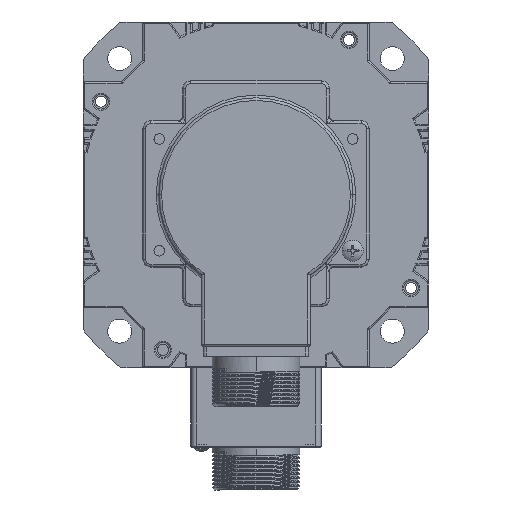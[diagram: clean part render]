
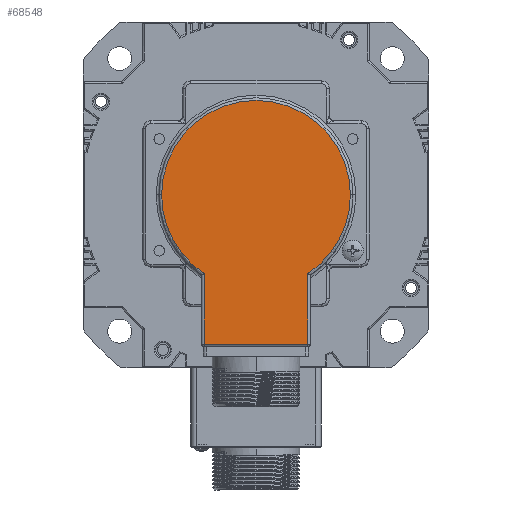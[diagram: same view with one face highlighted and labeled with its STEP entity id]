
A CAD part, front view. The second image highlights one B-rep face of the part: STEP entity #68548.
In plain terms, the highlighted planar face has unit normal (0, -1, 0) as drawn and (0, 0, -1) by its records, which use the part's own axes.
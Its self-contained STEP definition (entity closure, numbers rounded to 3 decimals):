
#280 = EDGE_CURVE ( 'NONE', #12769, #70616, #44548, .T. ) ;
#1198 = DIRECTION ( 'NONE',  ( 0., -1., 0. ) ) ;
#1391 = AXIS2_PLACEMENT_3D ( 'NONE', #35814, #29820, #12072 ) ;
#1818 = CARTESIAN_POINT ( 'NONE',  ( -19.5, 56.15, -33. ) ) ;
#1827 = CIRCLE ( 'NONE', #1391, 35.5 ) ;
#2311 = VECTOR ( 'NONE', #8053, 1000. ) ;
#2338 = EDGE_CURVE ( 'NONE', #70616, #67841, #32735, .T. ) ;
#2842 = ORIENTED_EDGE ( 'NONE', *, *, #7867, .T. ) ;
#3302 = DIRECTION ( 'NONE',  ( -1., 0., 0. ) ) ;
#4728 = FACE_OUTER_BOUND ( 'NONE', #62866, .T. ) ;
#7867 = EDGE_CURVE ( 'NONE', #25682, #21763, #1827, .T. ) ;
#8053 = DIRECTION ( 'NONE',  ( 0., 1., 0. ) ) ;
#8698 = LINE ( 'NONE', #63211, #65851 ) ;
#11341 = ORIENTED_EDGE ( 'NONE', *, *, #35955, .T. ) ;
#12072 = DIRECTION ( 'NONE',  ( -1., 0., 0. ) ) ;
#12453 = VERTEX_POINT ( 'NONE', #58096 ) ;
#12489 = AXIS2_PLACEMENT_3D ( 'NONE', #20276, #60474, #3302 ) ;
#12591 = DIRECTION ( 'NONE',  ( -1., 0., 0. ) ) ;
#12769 = VERTEX_POINT ( 'NONE', #21033 ) ;
#14872 = ORIENTED_EDGE ( 'NONE', *, *, #2338, .T. ) ;
#16663 = CARTESIAN_POINT ( 'NONE',  ( -19.5, 29.665, -33. ) ) ;
#19779 = CARTESIAN_POINT ( 'NONE',  ( -19.5, 57.15, -33. ) ) ;
#20276 = CARTESIAN_POINT ( 'NONE',  ( 0., 0., -33. ) ) ;
#21033 = CARTESIAN_POINT ( 'NONE',  ( -35.5, 0., -33. ) ) ;
#21763 = VERTEX_POINT ( 'NONE', #63012 ) ;
#22758 = DIRECTION ( 'NONE',  ( 1., 0., 0. ) ) ;
#23479 = AXIS2_PLACEMENT_3D ( 'NONE', #58627, #35440, #1198 ) ;
#25682 = VERTEX_POINT ( 'NONE', #34736 ) ;
#27751 = CARTESIAN_POINT ( 'NONE',  ( 19.5, 30.199, -33. ) ) ;
#29820 = DIRECTION ( 'NONE',  ( 0., 0., -1. ) ) ;
#32735 = LINE ( 'NONE', #19779, #2311 ) ;
#34736 = CARTESIAN_POINT ( 'NONE',  ( 19.5, 29.665, -33. ) ) ;
#34834 = ORIENTED_EDGE ( 'NONE', *, *, #280, .T. ) ;
#35082 = LINE ( 'NONE', #27751, #68995 ) ;
#35440 = DIRECTION ( 'NONE',  ( 0., 0., -1. ) ) ;
#35814 = CARTESIAN_POINT ( 'NONE',  ( 0., 0., -33. ) ) ;
#35955 = EDGE_CURVE ( 'NONE', #12453, #25682, #35082, .T. ) ;
#44548 = CIRCLE ( 'NONE', #50805, 35.5 ) ;
#45225 = DIRECTION ( 'NONE',  ( 0., -1., 0. ) ) ;
#48860 = CIRCLE ( 'NONE', #12489, 35.5 ) ;
#50805 = AXIS2_PLACEMENT_3D ( 'NONE', #52830, #70739, #12591 ) ;
#52830 = CARTESIAN_POINT ( 'NONE',  ( 0., 0., -33. ) ) ;
#58096 = CARTESIAN_POINT ( 'NONE',  ( 19.5, 56.15, -33. ) ) ;
#58627 = CARTESIAN_POINT ( 'NONE',  ( 0., 0., -33. ) ) ;
#59002 = EDGE_CURVE ( 'NONE', #67841, #12453, #8698, .T. ) ;
#59502 = ORIENTED_EDGE ( 'NONE', *, *, #60095, .T. ) ;
#60095 = EDGE_CURVE ( 'NONE', #21763, #12769, #48860, .T. ) ;
#60474 = DIRECTION ( 'NONE',  ( 0., 0., -1. ) ) ;
#62866 = EDGE_LOOP ( 'NONE', ( #14872, #73622, #11341, #2842, #59502, #34834 ) ) ;
#63012 = CARTESIAN_POINT ( 'NONE',  ( 35.5, 0., -33. ) ) ;
#63211 = CARTESIAN_POINT ( 'NONE',  ( 20.5, 56.15, -33. ) ) ;
#63628 = PLANE ( 'NONE',  #23479 ) ;
#65851 = VECTOR ( 'NONE', #22758, 1000. ) ;
#67841 = VERTEX_POINT ( 'NONE', #1818 ) ;
#68548 = ADVANCED_FACE ( 'NONE', ( #4728 ), #63628, .T. ) ;
#68995 = VECTOR ( 'NONE', #45225, 1000. ) ;
#70616 = VERTEX_POINT ( 'NONE', #16663 ) ;
#70739 = DIRECTION ( 'NONE',  ( 0., 0., -1. ) ) ;
#73622 = ORIENTED_EDGE ( 'NONE', *, *, #59002, .T. ) ;
